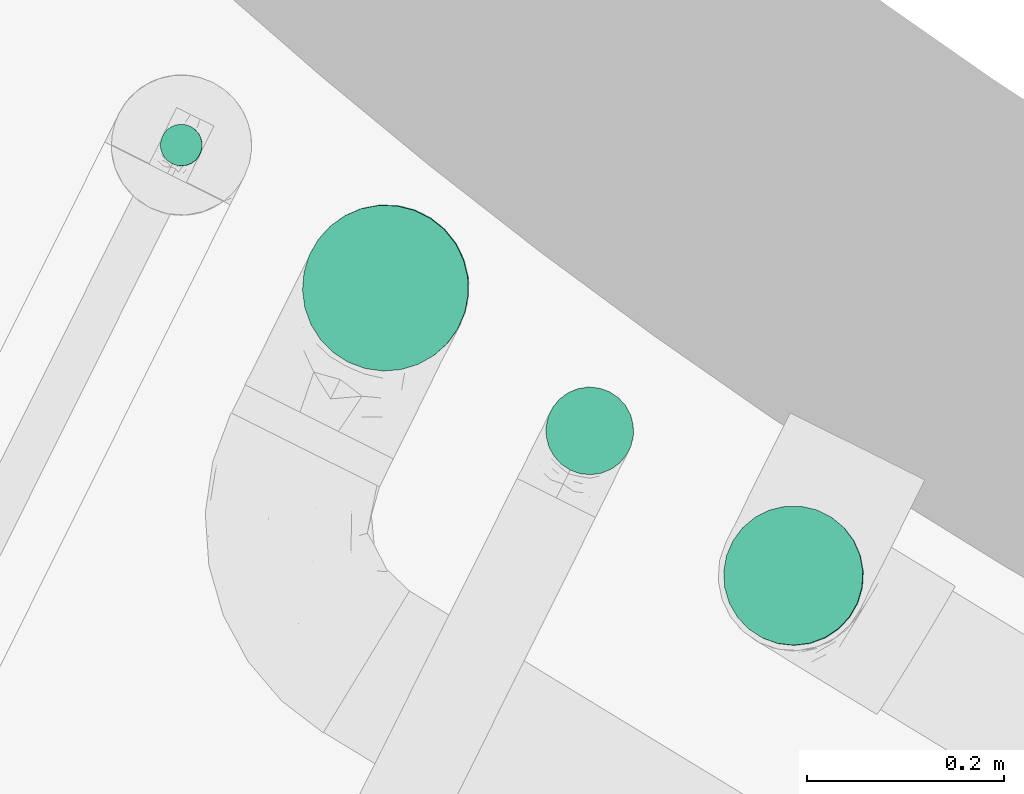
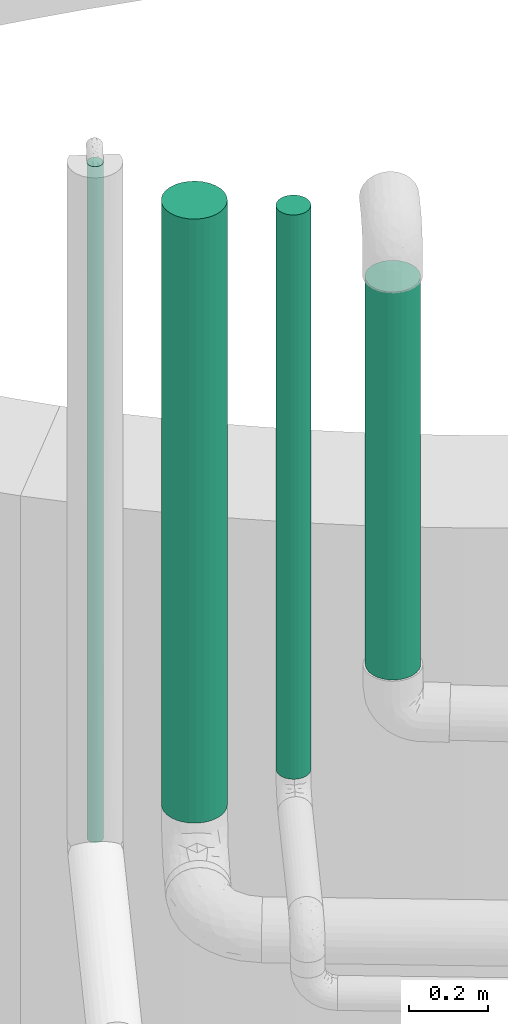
# One storey, part 23 of 47: 4 flow segments.
"""IFC2X3 building model written with IfcOpenShell, lengths in metres."""

from ifc_helpers import new_model, entity, si_unit, converted_unit, derived_unit, direction, frame, frame_2d, origin, origin_2d_with_axis, place, context, subcontext, project, spatial, circle, extrude, type_object, element, save


model = new_model("IFC2X3")

# Units and contexts
model_context = context("Model", 3, precision=1e-05, world=origin(), true_north=direction((0.894925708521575, 0.446215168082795)))
context_of_model = context(None, 3, precision=1e-05, world=origin(), true_north=direction((0.894925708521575, 0.446215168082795)))
body_context = subcontext(model_context, "Body", "Model", "MODEL_VIEW")
ifc_project = project(units=[si_unit("LENGTHUNIT", "METRE"), si_unit("AREAUNIT", "SQUARE_METRE"), si_unit("VOLUMEUNIT", "CUBIC_METRE"), converted_unit("PLANEANGLEUNIT", "DEGREE", entity("IfcRatioMeasure", 0.0174532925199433), si_unit("PLANEANGLEUNIT", "RADIAN"), dimensions=[0, 0, 0, 0, 0, 0, 0]), si_unit("MASSUNIT", "GRAM", prefix="KILO"), si_unit("TIMEUNIT", "SECOND"), si_unit("FREQUENCYUNIT", "HERTZ"), si_unit("THERMODYNAMICTEMPERATUREUNIT", "DEGREE_CELSIUS"), derived_unit("THERMALTRANSMITTANCEUNIT", [(si_unit("MASSUNIT", "GRAM", prefix="KILO"), 1), (si_unit("THERMODYNAMICTEMPERATUREUNIT", "KELVIN"), -1), (si_unit("TIMEUNIT", "SECOND"), -3)]), derived_unit("VOLUMETRICFLOWRATEUNIT", [(si_unit("LENGTHUNIT", "METRE"), 3), (si_unit("TIMEUNIT", "SECOND"), -1)]), si_unit("ELECTRICCURRENTUNIT", "AMPERE"), si_unit("ELECTRICVOLTAGEUNIT", "VOLT"), si_unit("POWERUNIT", "WATT"), si_unit("FORCEUNIT", "NEWTON", prefix="KILO"), si_unit("ILLUMINANCEUNIT", "LUX"), si_unit("LUMINOUSFLUXUNIT", "LUMEN"), si_unit("LUMINOUSINTENSITYUNIT", "CANDELA"), si_unit("PRESSUREUNIT", "PASCAL")], contexts=[model_context, context_of_model])

# Site, building, storey
site_placement = place(None, frame((218.228324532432, 584.720189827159, 0.0), z_axis=(0.0, 0.0, 1.0), x_axis=(0.446215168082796, 0.894925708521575, 0.0)))
site = spatial("IfcSite", under=ifc_project, at=site_placement, Name="Default", CompositionType="ELEMENT")
building_placement = place(site_placement, origin())
building = spatial("IfcBuilding", under=site, at=building_placement, CompositionType="ELEMENT")
storey_placement = place(building_placement, frame((0.0, 0.0, 4.69)))
storey = spatial("IfcBuildingStorey", under=building, at=storey_placement, Name="1 - Piano Primo", CompositionType="ELEMENT", Elevation=4.69)

# Flow segments
pipe_segment_type_1 = type_object("IfcPipeSegmentType", Name="Tubazione:Pluviale-Tubazione", PredefinedType="NOTDEFINED")
flow_segment_1_placement = place(storey_placement, frame((66.7829570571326, -2.59668240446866, 3.57855964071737)))
element("IfcFlowSegment", 1, at=flow_segment_1_placement, inside=storey, type_object=pipe_segment_type_1, Name="Tubazione:Pluviale-Tubazione", ObjectType="Tubazione:Pluviale-Tubazione", context=body_context, shape_type="SweptSolid", body=[
    extrude(circle(Radius=0.0706501, at=origin_2d_with_axis()), frame((0.0722453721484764, 0.072245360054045, 4.14885599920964e-05), z_axis=(4.97534155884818e-05, 0.000587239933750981, 0.999999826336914), x_axis=(-1.0, 0.0, 4.97534241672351e-05)), (0.0, 0.0, 1.0), 1.202640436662),
])
pipe_segment_type_2 = type_object("IfcPipeSegmentType", Name="Tubazione:Antincendio-Tubazione", PredefinedType="NOTDEFINED")
flow_segment_2_placement = place(storey_placement, frame((66.8483474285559, -2.31966475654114, 3.23599999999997)))
element("IfcFlowSegment", 2, at=flow_segment_2_placement, inside=storey, type_object=pipe_segment_type_2, Name="Tubazione:Antincendio-Tubazione", ObjectType="Tubazione:Antincendio-Tubazione", context=body_context, shape_type="SweptSolid", body=[
    extrude(circle(Radius=0.04445, at=origin_2d_with_axis()), frame((0.0460452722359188, 0.0460452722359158, 0.0), z_axis=(0.0, 0.0, 1.0), x_axis=(-1.0, 0.0, 0.0)), (0.0, 0.0, 1.0), 1.74900000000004),
])
flow_segment_3_placement = place(storey_placement, frame((66.8458294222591, -2.10966336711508, 3.11196862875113)))
element("IfcFlowSegment", 3, at=flow_segment_3_placement, inside=storey, type_object=pipe_segment_type_2, Name="Tubazione:Antincendio-Tubazione", ObjectType="Tubazione:Antincendio-Tubazione", context=body_context, shape_type="SweptSolid", body=[
    extrude(circle(Radius=0.0841375, at=frame_2d((-8.66293658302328e-15, 5.2109811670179e-22), x_axis=(1.0, 0.0))), frame((0.085732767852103, 0.0860817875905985, 1.87303137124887), z_axis=(0.00032280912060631, -0.000186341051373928, -0.99999993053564), x_axis=(-0.999999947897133, 0.0, -0.000322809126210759)), (0.0, 0.0, 1.0), 1.87300014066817),
])
flow_segment_4_placement = place(storey_placement, frame((66.9462705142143, -1.79654938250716, 2.99199668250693)))
element("IfcFlowSegment", 4, at=flow_segment_4_placement, inside=storey, type_object=pipe_segment_type_2, Name="Tubazione:Antincendio-Tubazione", ObjectType="Tubazione:Antincendio-Tubazione", context=body_context, shape_type="SweptSolid", body=[
    extrude(circle(Radius=0.021082, at=origin_2d_with_axis()), frame((0.0226772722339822, 0.0226772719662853, 3.37174968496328e-06), z_axis=(1.35503600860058e-05, 0.000159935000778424, 0.999999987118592), x_axis=(-1.0, 0.0, 1.35503602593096e-05)), (0.0, 0.0, 1.0), 2.09599997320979),
])

save(model, "model.ifc")
